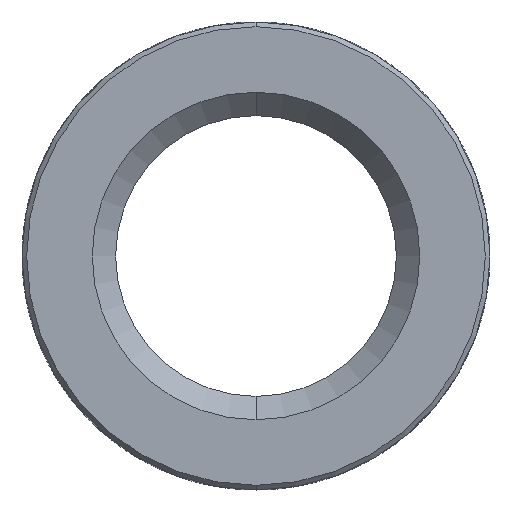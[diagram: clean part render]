
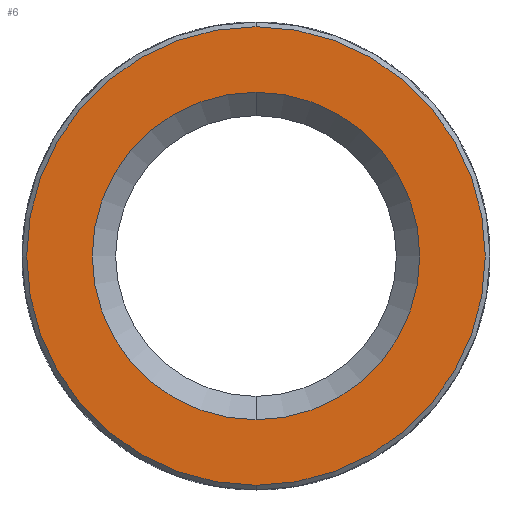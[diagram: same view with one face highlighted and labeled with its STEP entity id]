
A CAD part, front view. The second image highlights one B-rep face of the part: STEP entity #6.
In plain terms, the highlighted planar face has unit normal (0, -1, 0).
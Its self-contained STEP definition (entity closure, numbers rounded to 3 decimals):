
#6 = ADVANCED_FACE ( 'NONE', ( #328, #1716 ), #3725, .T. ) ;
#144 = ORIENTED_EDGE ( 'NONE', *, *, #2192, .T. ) ;
#184 = CARTESIAN_POINT ( 'NONE',  ( 0., -6.4, 0. ) ) ;
#328 = FACE_OUTER_BOUND ( 'NONE', #3395, .T. ) ;
#519 = DIRECTION ( 'NONE',  ( 0., 1., 0. ) ) ;
#528 = CARTESIAN_POINT ( 'NONE',  ( 0., -6.4, 5. ) ) ;
#714 = VERTEX_POINT ( 'NONE', #1429 ) ;
#790 = EDGE_CURVE ( 'NONE', #2237, #1241, #3116, .T. ) ;
#814 = DIRECTION ( 'NONE',  ( 0., -1., 0. ) ) ;
#847 = CIRCLE ( 'NONE', #2194, 3.5 ) ;
#981 = AXIS2_PLACEMENT_3D ( 'NONE', #184, #1636, #2754 ) ;
#1045 = AXIS2_PLACEMENT_3D ( 'NONE', #2750, #3049, #1320 ) ;
#1241 = VERTEX_POINT ( 'NONE', #1829 ) ;
#1320 = DIRECTION ( 'NONE',  ( 0., 0., -1. ) ) ;
#1429 = CARTESIAN_POINT ( 'NONE',  ( 0., -6.4, -3.5 ) ) ;
#1588 = CARTESIAN_POINT ( 'NONE',  ( 0., -6.4, 4.9 ) ) ;
#1636 = DIRECTION ( 'NONE',  ( 0., -1., 0. ) ) ;
#1716 = FACE_BOUND ( 'NONE', #2102, .T. ) ;
#1829 = CARTESIAN_POINT ( 'NONE',  ( 0., -6.4, -4.9 ) ) ;
#1857 = DIRECTION ( 'NONE',  ( 0., 0., -1. ) ) ;
#1918 = AXIS2_PLACEMENT_3D ( 'NONE', #3597, #3566, #1857 ) ;
#2102 = EDGE_LOOP ( 'NONE', ( #3215, #2760 ) ) ;
#2158 = VERTEX_POINT ( 'NONE', #3075 ) ;
#2192 = EDGE_CURVE ( 'NONE', #1241, #2237, #2415, .T. ) ;
#2194 = AXIS2_PLACEMENT_3D ( 'NONE', #2522, #519, #2811 ) ;
#2237 = VERTEX_POINT ( 'NONE', #1588 ) ;
#2363 = ORIENTED_EDGE ( 'NONE', *, *, #790, .T. ) ;
#2394 = CIRCLE ( 'NONE', #1918, 3.5 ) ;
#2415 = CIRCLE ( 'NONE', #981, 4.9 ) ;
#2522 = CARTESIAN_POINT ( 'NONE',  ( 0., -6.4, 0. ) ) ;
#2655 = EDGE_CURVE ( 'NONE', #714, #2158, #2394, .T. ) ;
#2750 = CARTESIAN_POINT ( 'NONE',  ( 0., -6.4, 0. ) ) ;
#2754 = DIRECTION ( 'NONE',  ( 0., 0., -1. ) ) ;
#2760 = ORIENTED_EDGE ( 'NONE', *, *, #3052, .T. ) ;
#2800 = AXIS2_PLACEMENT_3D ( 'NONE', #528, #814, #2829 ) ;
#2811 = DIRECTION ( 'NONE',  ( 0., 0., -1. ) ) ;
#2829 = DIRECTION ( 'NONE',  ( 0., 0., -1. ) ) ;
#3049 = DIRECTION ( 'NONE',  ( 0., -1., 0. ) ) ;
#3052 = EDGE_CURVE ( 'NONE', #2158, #714, #847, .T. ) ;
#3075 = CARTESIAN_POINT ( 'NONE',  ( 0., -6.4, 3.5 ) ) ;
#3116 = CIRCLE ( 'NONE', #1045, 4.9 ) ;
#3215 = ORIENTED_EDGE ( 'NONE', *, *, #2655, .T. ) ;
#3395 = EDGE_LOOP ( 'NONE', ( #2363, #144 ) ) ;
#3566 = DIRECTION ( 'NONE',  ( 0., 1., 0. ) ) ;
#3597 = CARTESIAN_POINT ( 'NONE',  ( 0., -6.4, 0. ) ) ;
#3725 = PLANE ( 'NONE',  #2800 ) ;
